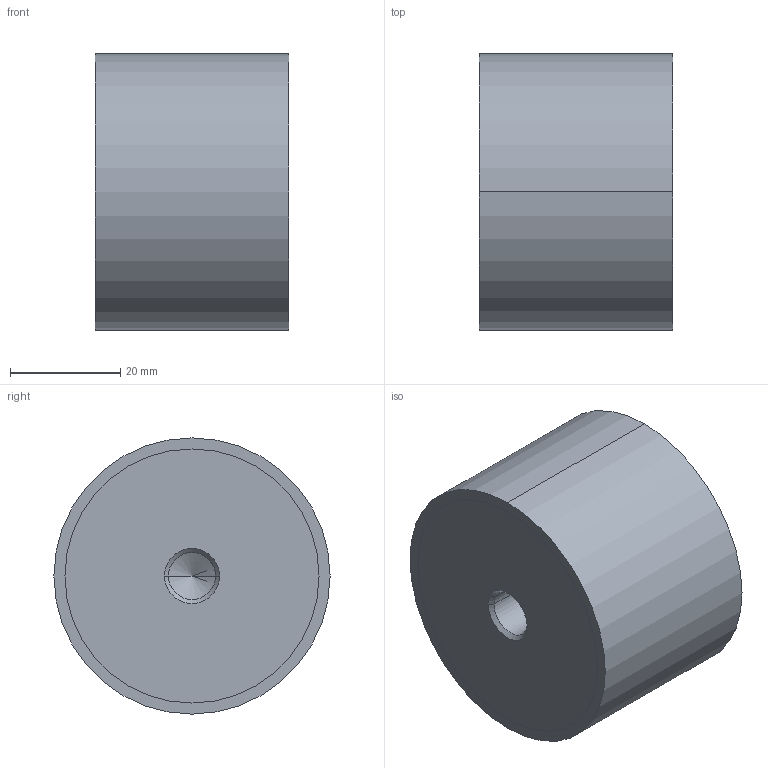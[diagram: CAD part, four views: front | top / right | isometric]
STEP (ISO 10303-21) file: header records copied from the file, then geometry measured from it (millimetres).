
FILE_DESCRIPTION (( 'STEP AP214' ), '1' );
FILE_NAME ('351-50-35-M10-EE-55.step', '2025-07-23T09:48:14', ( '' ), ( '' ), 'SwSTEP 2.0', 'SolidWorks 2022', '' );
FILE_SCHEMA (( 'AUTOMOTIVE_DESIGN' ));
Length unit declared in the file: millimetre
Products named in the file (1): 351-50-35-M10-EE-55
Bounding box: 35 x 50 x 50 mm (x, y, z)
Volume: 67314.7 mm3; surface area: 10019.8 mm2
Topology: 1 solids, 1 shells, 28 faces, 58 edges, 34 vertices
Faces by surface type: cylinder 14, cone 8, plane 6
Entity records: 844 total; most frequent: DIRECTION 144, CARTESIAN_POINT 117, ORIENTED_EDGE 108, AXIS2_PLACEMENT_3D 61, EDGE_CURVE 54, VERTEX_POINT 34, EDGE_LOOP 34, CIRCLE 32
